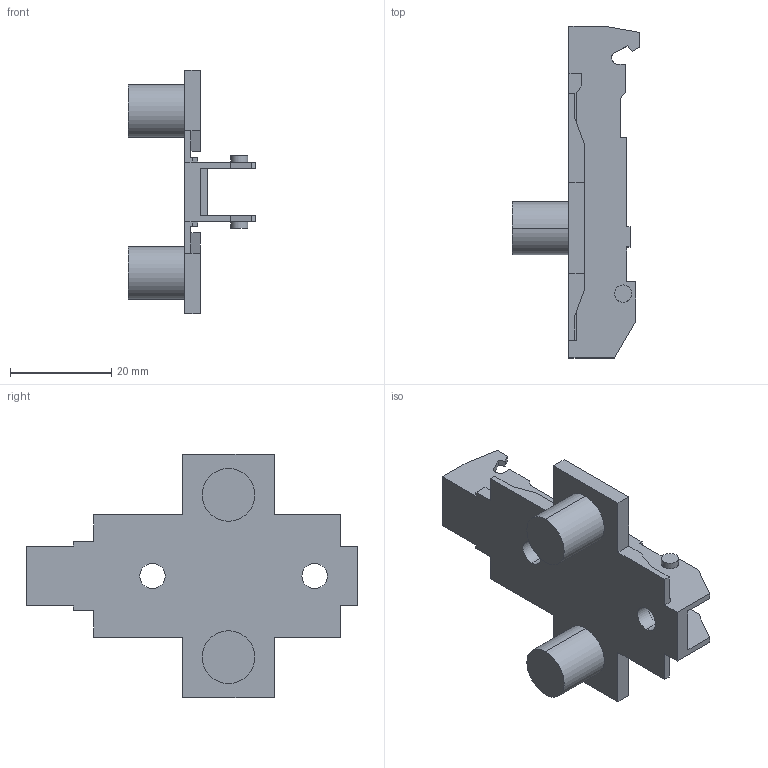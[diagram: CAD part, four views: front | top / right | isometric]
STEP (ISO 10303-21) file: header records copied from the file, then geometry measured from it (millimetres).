
FILE_DESCRIPTION (( 'STEP AP214' ), '1' );
FILE_NAME ('1D_Kreuzmontageplatte 37_32_10mm_Dübel_3,5.step', '2018-10-02T12:38:49', ( '' ), ( '' ), 'SwSTEP 2.0', 'SolidWorks 2017', '' );
FILE_SCHEMA (( 'AUTOMOTIVE_DESIGN' ));
Length unit declared in the file: millimetre
Products named in the file (1): 1D_Kreuzmontageplatte 37_32_10mm_Dübel_3,5
Bounding box: 25.2 x 65.5 x 48 mm (x, y, z)
Volume: 8233.5 mm3; surface area: 7567.2 mm2
Topology: 1 solids, 1 shells, 114 faces, 314 edges, 208 vertices
Faces by surface type: plane 88, cylinder 22, cone 4
Entity records: 3636 total; most frequent: CARTESIAN_POINT 637, ORIENTED_EDGE 628, DIRECTION 592, EDGE_CURVE 314, VECTOR 266, LINE 266, VERTEX_POINT 208, AXIS2_PLACEMENT_3D 163
